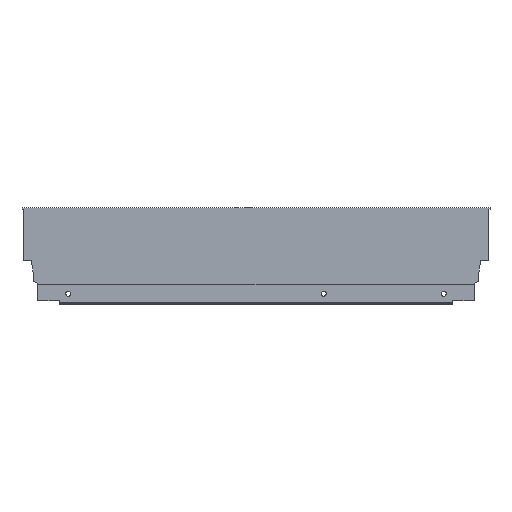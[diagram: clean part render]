
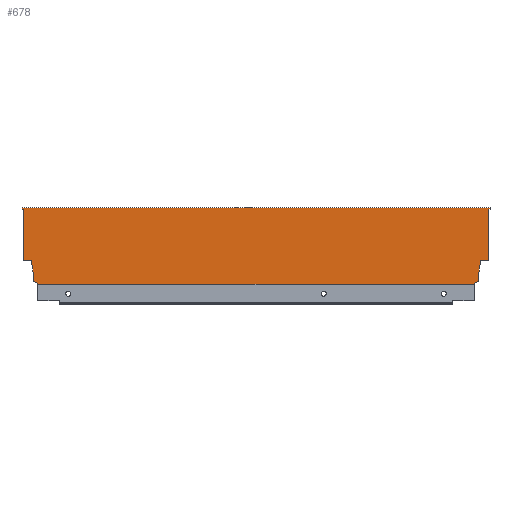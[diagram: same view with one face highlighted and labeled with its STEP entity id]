
A CAD part, top view. The second image highlights one B-rep face of the part: STEP entity #678.
In plain terms, the highlighted planar face has unit normal (0, 0, 1).
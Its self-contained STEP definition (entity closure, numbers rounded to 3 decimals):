
#5 = CARTESIAN_POINT ( 'NONE',  ( 0., 21.2, 7.5 ) ) ;
#8 = CARTESIAN_POINT ( 'NONE',  ( 1., 68., 7.5 ) ) ;
#11 = CARTESIAN_POINT ( 'NONE',  ( -8.9, 2.64, 7.5 ) ) ;
#12 = CARTESIAN_POINT ( 'NONE',  ( 0., 66.5, 7.5 ) ) ;
#14 = CARTESIAN_POINT ( 'NONE',  ( -404.1, 2.64, 7.5 ) ) ;
#21 = CARTESIAN_POINT ( 'NONE',  ( -7.06, 21.2, 7.5 ) ) ;
#23 = CARTESIAN_POINT ( 'NONE',  ( -399.996, 1.146, 7.5 ) ) ;
#26 = CARTESIAN_POINT ( 'NONE',  ( -399.996, 0., 7.5 ) ) ;
#29 = CARTESIAN_POINT ( 'NONE',  ( -13.004, 0., 7.5 ) ) ;
#32 = CARTESIAN_POINT ( 'NONE',  ( -8.9, 10.765, 7.5 ) ) ;
#35 = CARTESIAN_POINT ( 'NONE',  ( -405.94, 21.2, 7.5 ) ) ;
#40 = CARTESIAN_POINT ( 'NONE',  ( -13.004, 1.146, 7.5 ) ) ;
#42 = CARTESIAN_POINT ( 'NONE',  ( -414., 68., 7.5 ) ) ;
#48 = CARTESIAN_POINT ( 'NONE',  ( 1., 66.5, 7.5 ) ) ;
#51 = CARTESIAN_POINT ( 'NONE',  ( -413., 66.5, 7.5 ) ) ;
#73 = CARTESIAN_POINT ( 'NONE',  ( -413., 21.2, 7.5 ) ) ;
#81 = CARTESIAN_POINT ( 'NONE',  ( -414., 66.5, 7.5 ) ) ;
#83 = CARTESIAN_POINT ( 'NONE',  ( -404.1, 10.765, 7.5 ) ) ;
#101 = VERTEX_POINT ( 'NONE', #83 ) ;
#103 = VERTEX_POINT ( 'NONE', #81 ) ;
#111 = VERTEX_POINT ( 'NONE', #73 ) ;
#133 = VERTEX_POINT ( 'NONE', #51 ) ;
#136 = VERTEX_POINT ( 'NONE', #48 ) ;
#142 = VERTEX_POINT ( 'NONE', #42 ) ;
#144 = VERTEX_POINT ( 'NONE', #40 ) ;
#149 = VERTEX_POINT ( 'NONE', #35 ) ;
#152 = VERTEX_POINT ( 'NONE', #32 ) ;
#155 = VERTEX_POINT ( 'NONE', #29 ) ;
#158 = VERTEX_POINT ( 'NONE', #26 ) ;
#161 = VERTEX_POINT ( 'NONE', #23 ) ;
#163 = VERTEX_POINT ( 'NONE', #21 ) ;
#170 = VERTEX_POINT ( 'NONE', #14 ) ;
#172 = VERTEX_POINT ( 'NONE', #12 ) ;
#173 = VERTEX_POINT ( 'NONE', #11 ) ;
#176 = VERTEX_POINT ( 'NONE', #8 ) ;
#179 = VERTEX_POINT ( 'NONE', #5 ) ;
#237 = PLANE ( 'NONE',  #1076 ) ;
#240 = CARTESIAN_POINT ( 'NONE',  ( -413., 0., 7.5 ) ) ;
#246 = DIRECTION ( 'NONE',  ( 0., 0., 1. ) ) ;
#247 = DIRECTION ( 'NONE',  ( 1., 0., 0. ) ) ;
#410 = CARTESIAN_POINT ( 'NONE',  ( 0., 0., 7.5 ) ) ;
#417 = DIRECTION ( 'NONE',  ( 0., -1., 0. ) ) ;
#462 = CARTESIAN_POINT ( 'NONE',  ( -7.06, 21.2, 7.5 ) ) ;
#463 = DIRECTION ( 'NONE',  ( -0.174, -0.985, 0. ) ) ;
#466 = CARTESIAN_POINT ( 'NONE',  ( -399.996, 1.146, 7.5 ) ) ;
#467 = CARTESIAN_POINT ( 'NONE',  ( -8.9, 2.64, 7.5 ) ) ;
#468 = DIRECTION ( 'NONE',  ( -0.94, -0.342, 0. ) ) ;
#469 = CARTESIAN_POINT ( 'NONE',  ( -404.1, 2.64, 7.5 ) ) ;
#470 = DIRECTION ( 'NONE',  ( -0.94, 0.342, 0. ) ) ;
#471 = CARTESIAN_POINT ( 'NONE',  ( -13.004, 1.146, 7.5 ) ) ;
#472 = DIRECTION ( 'NONE',  ( 0., -1., 0. ) ) ;
#473 = CARTESIAN_POINT ( 'NONE',  ( -413., 0., 7.5 ) ) ;
#474 = DIRECTION ( 'NONE',  ( 0., -1., 0. ) ) ;
#475 = CARTESIAN_POINT ( 'NONE',  ( -405.94, 21.2, 7.5 ) ) ;
#476 = DIRECTION ( 'NONE',  ( 0., 1., 0. ) ) ;
#477 = CARTESIAN_POINT ( 'NONE',  ( -414., 66.5, 7.5 ) ) ;
#478 = DIRECTION ( 'NONE',  ( 0., 1., 0. ) ) ;
#479 = CARTESIAN_POINT ( 'NONE',  ( -404.1, 10.765, 7.5 ) ) ;
#480 = DIRECTION ( 'NONE',  ( 0., 1., 0. ) ) ;
#483 = CARTESIAN_POINT ( 'NONE',  ( -413., 68., 7.5 ) ) ;
#484 = DIRECTION ( 'NONE',  ( 1., 0., 0. ) ) ;
#485 = DIRECTION ( 'NONE',  ( -0.174, 0.985, 0. ) ) ;
#487 = CARTESIAN_POINT ( 'NONE',  ( -418., 21.2, 7.5 ) ) ;
#488 = DIRECTION ( 'NONE',  ( -1., 0., 0. ) ) ;
#493 = CARTESIAN_POINT ( 'NONE',  ( -414., 66.5, 7.5 ) ) ;
#494 = DIRECTION ( 'NONE',  ( 1., 0., 0. ) ) ;
#497 = CARTESIAN_POINT ( 'NONE',  ( -413., 0., 7.5 ) ) ;
#498 = DIRECTION ( 'NONE',  ( 1., 0., 0. ) ) ;
#662 = CARTESIAN_POINT ( 'NONE',  ( -8.9, 10.765, 7.5 ) ) ;
#664 = DIRECTION ( 'NONE',  ( 0., -1., 0. ) ) ;
#678 = ADVANCED_FACE ( 'NONE', ( #859 ), #237, .T. ) ;
#763 = ORIENTED_EDGE ( 'NONE', *, *, #980, .F. ) ;
#859 = FACE_OUTER_BOUND ( 'NONE', #1661, .T. ) ;
#906 = ORIENTED_EDGE ( 'NONE', *, *, #987, .F. ) ;
#907 = ORIENTED_EDGE ( 'NONE', *, *, #984, .F. ) ;
#908 = ORIENTED_EDGE ( 'NONE', *, *, #991, .T. ) ;
#909 = ORIENTED_EDGE ( 'NONE', *, *, #982, .T. ) ;
#910 = ORIENTED_EDGE ( 'NONE', *, *, #989, .F. ) ;
#911 = ORIENTED_EDGE ( 'NONE', *, *, #985, .F. ) ;
#912 = ORIENTED_EDGE ( 'NONE', *, *, #993, .T. ) ;
#913 = ORIENTED_EDGE ( 'NONE', *, *, #983, .F. ) ;
#914 = ORIENTED_EDGE ( 'NONE', *, *, #988, .F. ) ;
#929 = EDGE_CURVE ( 'NONE', #172, #179, #1274, .T. ) ;
#970 = EDGE_CURVE ( 'NONE', #176, #136, #1192, .T. ) ;
#972 = EDGE_CURVE ( 'NONE', #136, #172, #1189, .T. ) ;
#974 = EDGE_CURVE ( 'NONE', #179, #163, #1210, .T. ) ;
#976 = EDGE_CURVE ( 'NONE', #163, #152, #1195, .T. ) ;
#978 = EDGE_CURVE ( 'NONE', #152, #173, #1203, .T. ) ;
#979 = EDGE_CURVE ( 'NONE', #173, #144, #1289, .T. ) ;
#980 = EDGE_CURVE ( 'NONE', #161, #170, #1291, .T. ) ;
#981 = EDGE_CURVE ( 'NONE', #144, #155, #1293, .T. ) ;
#982 = EDGE_CURVE ( 'NONE', #133, #111, #1295, .T. ) ;
#983 = EDGE_CURVE ( 'NONE', #158, #161, #1200, .T. ) ;
#984 = EDGE_CURVE ( 'NONE', #103, #142, #1299, .T. ) ;
#985 = EDGE_CURVE ( 'NONE', #170, #101, #1301, .T. ) ;
#987 = EDGE_CURVE ( 'NONE', #142, #176, #1305, .T. ) ;
#988 = EDGE_CURVE ( 'NONE', #101, #149, #1184, .T. ) ;
#989 = EDGE_CURVE ( 'NONE', #149, #111, #1309, .T. ) ;
#991 = EDGE_CURVE ( 'NONE', #103, #133, #1308, .T. ) ;
#993 = EDGE_CURVE ( 'NONE', #158, #155, #1317, .T. ) ;
#1076 = AXIS2_PLACEMENT_3D ( 'NONE', #240, #246, #247 ) ;
#1134 = DIRECTION ( 'NONE',  ( -1., 0., 0. ) ) ;
#1138 = CARTESIAN_POINT ( 'NONE',  ( 1., 68., 7.5 ) ) ;
#1147 = DIRECTION ( 'NONE',  ( -1., 0., 0. ) ) ;
#1149 = CARTESIAN_POINT ( 'NONE',  ( 0., 21.2, 7.5 ) ) ;
#1151 = DIRECTION ( 'NONE',  ( 0., -1., 0. ) ) ;
#1153 = CARTESIAN_POINT ( 'NONE',  ( 1., 66.5, 7.5 ) ) ;
#1184 = LINE ( 'NONE', #475, #1307 ) ;
#1185 = VECTOR ( 'NONE', #1147, 1000. ) ;
#1188 = VECTOR ( 'NONE', #1134, 1000. ) ;
#1189 = LINE ( 'NONE', #1153, #1188 ) ;
#1192 = LINE ( 'NONE', #1138, #1193 ) ;
#1193 = VECTOR ( 'NONE', #1151, 1000. ) ;
#1194 = VECTOR ( 'NONE', #463, 1000. ) ;
#1195 = LINE ( 'NONE', #462, #1194 ) ;
#1200 = LINE ( 'NONE', #466, #1297 ) ;
#1203 = LINE ( 'NONE', #662, #1288 ) ;
#1210 = LINE ( 'NONE', #1149, #1185 ) ;
#1274 = LINE ( 'NONE', #410, #1278 ) ;
#1278 = VECTOR ( 'NONE', #417, 1000. ) ;
#1288 = VECTOR ( 'NONE', #664, 1000. ) ;
#1289 = LINE ( 'NONE', #467, #1290 ) ;
#1290 = VECTOR ( 'NONE', #468, 1000. ) ;
#1291 = LINE ( 'NONE', #469, #1292 ) ;
#1292 = VECTOR ( 'NONE', #470, 1000. ) ;
#1293 = LINE ( 'NONE', #471, #1294 ) ;
#1294 = VECTOR ( 'NONE', #472, 1000. ) ;
#1295 = LINE ( 'NONE', #473, #1296 ) ;
#1296 = VECTOR ( 'NONE', #474, 1000. ) ;
#1297 = VECTOR ( 'NONE', #476, 1000. ) ;
#1298 = VECTOR ( 'NONE', #494, 1000. ) ;
#1299 = LINE ( 'NONE', #477, #1300 ) ;
#1300 = VECTOR ( 'NONE', #478, 1000. ) ;
#1301 = LINE ( 'NONE', #479, #1302 ) ;
#1302 = VECTOR ( 'NONE', #480, 1000. ) ;
#1305 = LINE ( 'NONE', #483, #1306 ) ;
#1306 = VECTOR ( 'NONE', #484, 1000. ) ;
#1307 = VECTOR ( 'NONE', #485, 1000. ) ;
#1308 = LINE ( 'NONE', #493, #1298 ) ;
#1309 = LINE ( 'NONE', #487, #1310 ) ;
#1310 = VECTOR ( 'NONE', #488, 1000. ) ;
#1317 = LINE ( 'NONE', #497, #1318 ) ;
#1318 = VECTOR ( 'NONE', #498, 1000. ) ;
#1652 = ORIENTED_EDGE ( 'NONE', *, *, #929, .F. ) ;
#1653 = ORIENTED_EDGE ( 'NONE', *, *, #974, .F. ) ;
#1654 = ORIENTED_EDGE ( 'NONE', *, *, #976, .F. ) ;
#1655 = ORIENTED_EDGE ( 'NONE', *, *, #978, .F. ) ;
#1656 = ORIENTED_EDGE ( 'NONE', *, *, #979, .F. ) ;
#1658 = ORIENTED_EDGE ( 'NONE', *, *, #981, .F. ) ;
#1661 = EDGE_LOOP ( 'NONE', ( #906, #907, #908, #909, #910, #914, #911, #763, #913, #912, #1658, #1656, #1655, #1654, #1653, #1652, #1667, #1665 ) ) ;
#1665 = ORIENTED_EDGE ( 'NONE', *, *, #970, .F. ) ;
#1667 = ORIENTED_EDGE ( 'NONE', *, *, #972, .F. ) ;
